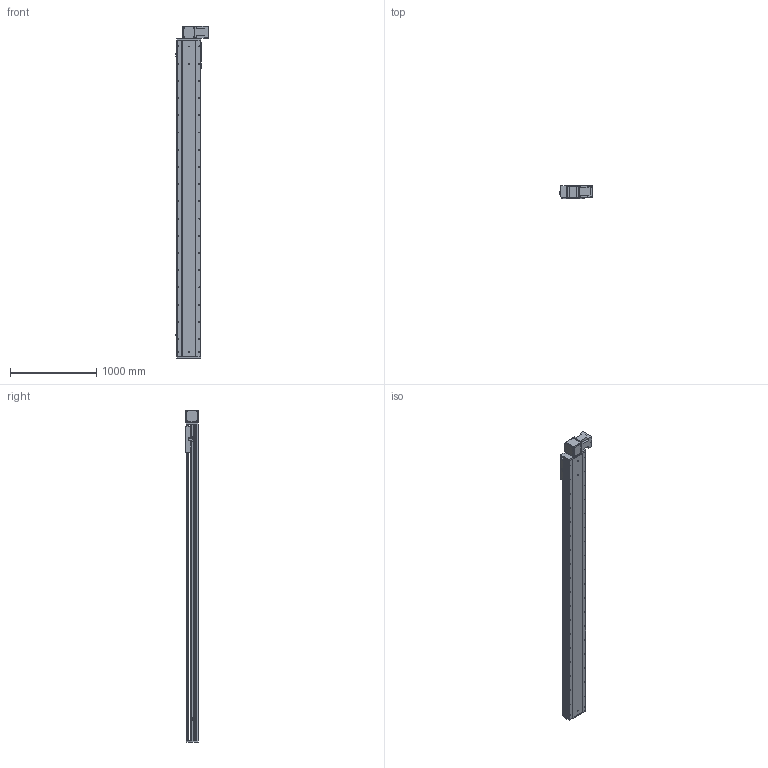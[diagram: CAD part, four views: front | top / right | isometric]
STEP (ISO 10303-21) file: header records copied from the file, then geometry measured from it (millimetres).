
FILE_DESCRIPTION (( 'STEP AP214' ), '1' );
FILE_NAME ('RTB28S-XX-3250-BL-M100-XX-C4.STEP', '2025-12-22T02:38:04', ( '' ), ( '' ), 'SwSTEP 2.0', 'SolidWorks 2018', '' );
FILE_SCHEMA (( 'AUTOMOTIVE_DESIGN' ));
Length unit declared in the file: millimetre
Products named in the file (4): RTB28S-GY-011^RTB28S-XX-XX-BL-M100-XX-C4; RTB28S-GY-008^RTB28S-XX-XX-BL-M100-XX-C4; RTB28S-GY-004^RTB28S-XX-XX-BL-M100-XX-C4; RTB28S-XX-3250-BL-M100-XX-C4
Assembly tree (3 placements, depth 2):
  RTB28S-XX-3250-BL-M100-XX-C4
    RTB28S-GY-011^RTB28S-XX-XX-BL-M100-XX-C4
    RTB28S-GY-004^RTB28S-XX-XX-BL-M100-XX-C4
    RTB28S-GY-008^RTB28S-XX-XX-BL-M100-XX-C4
Bounding box: 380.7 x 145 x 3857 mm (x, y, z)
Volume: 65049279 mm3; surface area: 6058444.9 mm2
Topology: 3 solids, 4 shells, 898 faces, 2418 edges, 1548 vertices
Faces by surface type: cylinder 447, plane 367, cone 80, torus 4
Entity records: 34859 total; most frequent: CARTESIAN_POINT 6652, DIRECTION 5148, ORIENTED_EDGE 4772, EDGE_CURVE 2386, AXIS2_PLACEMENT_3D 1904, VERTEX_POINT 1548, LINE 1340, VECTOR 1340
